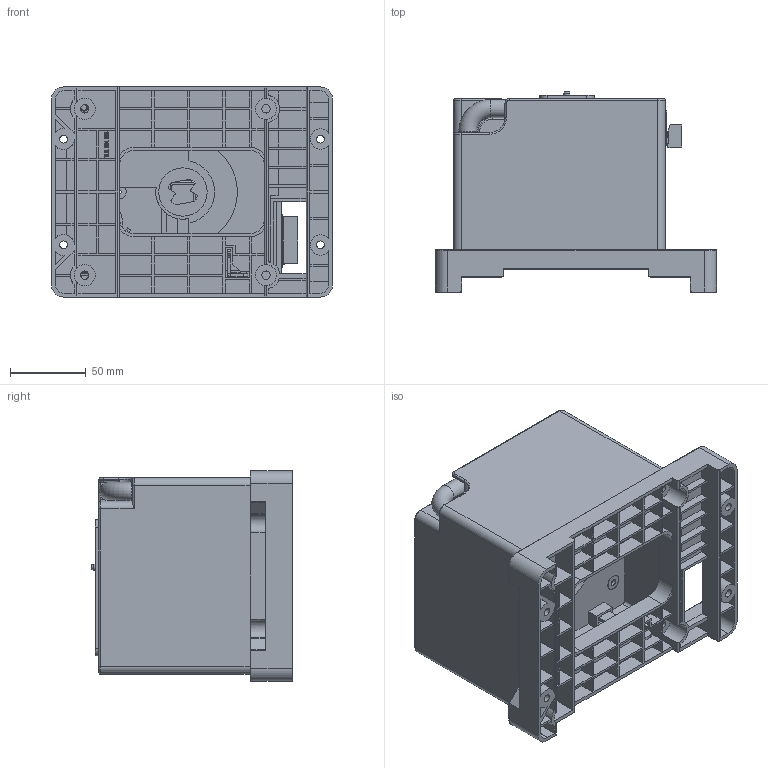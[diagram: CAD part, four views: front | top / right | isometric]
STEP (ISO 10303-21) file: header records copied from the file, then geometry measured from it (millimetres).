
FILE_DESCRIPTION(/* description */ (''),/* implementation_level */ '2;1');
FILE_NAME(/* name */ 'MOT40GM_3D DATA.stp',/* time_stamp */ '2017-12-26T17:27:58+09:00',/* author */ (''),/* organization */ (''),/* preprocessor_version */ 'ST-DEVELOPER v15',/* originating_system */ 'SIEMENS PLM Software NX 9.0',/* authorisation */ '');
FILE_SCHEMA (('AP203_CONFIGURATION_CONTROLLED_3D_DESIGN_OF_MECHANICAL_PARTS_AND_ASSEMBLIES_MIM_LF { 1 0 10303 403 2 1 2}'));
Products named in the file (11): 400GM__WL8.024.239.2_id180_x_t; CD4B-40GM_id175_x_t; WL8.261.44B-POM_id170_x_t; ____ _______id165_x_t; MOT-40GM-_______WL8.235.443__id160_x_t; 6__________5.08_id155_x_t; 310____.WL8.024.238.2_id150_x_t; 40GM_____WL8.024.663_GG_id16_x_t; WL8.253.070 HY____-ABS_id11_x_t; _____________id6_x_t; CD4B-40GM_x_t
Assembly tree (10 placements, depth 2):
  CD4B-40GM_x_t
    _____________id6_x_t
    WL8.253.070 HY____-ABS_id11_x_t
    40GM_____WL8.024.663_GG_id16_x_t
    310____.WL8.024.238.2_id150_x_t
    6__________5.08_id155_x_t
    MOT-40GM-_______WL8.235.443__id160_x_t
    ____ _______id165_x_t
    WL8.261.44B-POM_id170_x_t
    CD4B-40GM_id175_x_t
    400GM__WL8.024.239.2_id180_x_t
Bounding box: 186 x 132.8 x 139 mm (x, y, z)
Volume: 426663.6 mm3; surface area: 357702.7 mm2
Topology: 10 solids, 10 shells, 2126 faces, 5860 edges, 3827 vertices
Faces by surface type: plane 1585, cylinder 324, extrusion 149, torus 21, cone 20, bspline 15, sphere 12
Full cylindrical faces by diameter (mm): 1.9 x2, 2.2 x2, 2.4 x2, 2.8 x6, 3.3 x1, 3.5 x1, 3.7 x6, 4 x1, 4.2 x4, 5 x1, 5.2 x4, 5.5 x4, 7 x3, 8 x2, 9 x3, 10 x5, 12 x6, 32 x1, 36 x1
Entity records: 74671 total; most frequent: CARTESIAN_POINT 19768, ORIENTED_EDGE 11502, DIRECTION 10259, EDGE_CURVE 5751, VECTOR 4781, LINE 4632, VERTEX_POINT 3798, AXIS2_PLACEMENT_3D 2739
